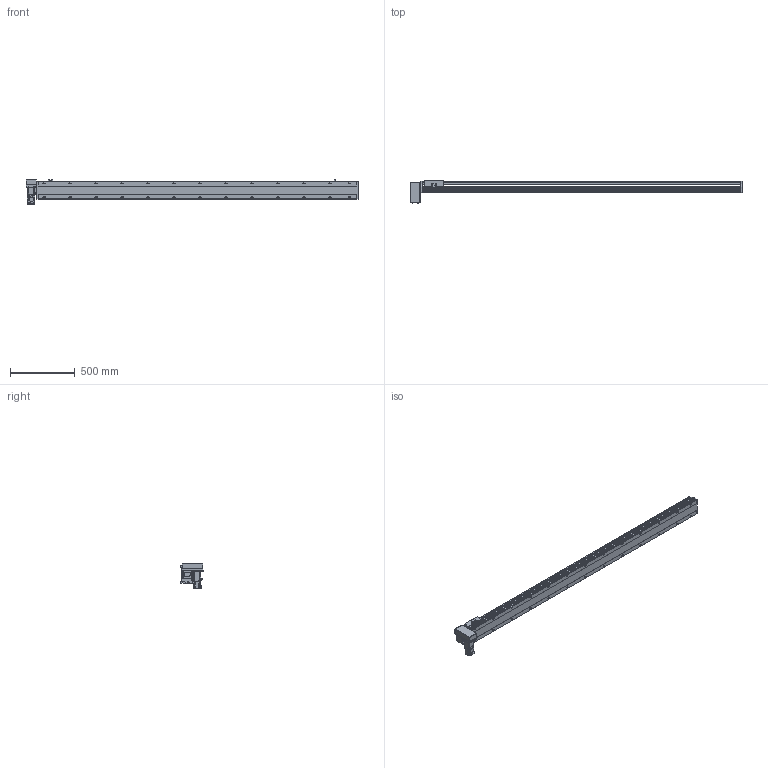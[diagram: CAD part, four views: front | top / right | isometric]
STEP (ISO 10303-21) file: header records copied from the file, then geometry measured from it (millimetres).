
FILE_DESCRIPTION( ( 'STEP AP214' ), '1' );
FILE_NAME( 'x:/temp/worker_6/temp/exporttempdir_5396_184_K6EFV/format_0/PBS140S-P40-S2200-RD-T40-C1-N(0).stp', '2022-06-09T00:47:33', ( 'License CC BY-ND 4.0' ), ( 'CADENAS' ), ' ', 'PARTsolutions', ' ' );
FILE_SCHEMA( ( 'AUTOMOTIVE_DESIGN { 1 0 10303 214 1 1 1 1 }' ) );
Length unit declared in the file: millimetre
Products named in the file (7): PBS140S-P40-S2200-RD-T40-C1-N(0); _PBS140S-S2200()_body; _PBS140ST-RD_motors; _T40-p1; _PBS140S_sliser; _PBS140S_plant; _PBS140S_sensor
Assembly tree (8 placements, depth 2):
  PBS140S-P40-S2200-RD-T40-C1-N(0)
    _PBS140S-S2200()_body
    _PBS140ST-RD_motors
    _T40-p1
    _PBS140S_sliser
    _PBS140S_plant
    _PBS140S_sensor  x3
Bounding box: 2554 x 172.5 x 189.7 mm (x, y, z)
Volume: 12504302 mm3; surface area: 2113137.5 mm2
Topology: 8 solids, 8 shells, 1179 faces, 3111 edges, 2035 vertices
Faces by surface type: plane 732, cylinder 385, cone 52, sphere 8, torus 2
Full cylindrical faces by diameter (mm): 3.242 x4, 4 x2, 4.134 x4, 4.4 x8, 4.5 x2, 4.8 x4, 4.917 x34, 5.5 x7, 6 x2, 7 x28, 7.5 x8, 8 x12, 8.5 x4, 10.5 x26, 14 x1, 30 x2, 50 x2
Entity records: 43546 total; most frequent: CARTESIAN_POINT 7246, DIRECTION 5698, ORIENTED_EDGE 5362, EDGE_CURVE 2681, AXIS2_PLACEMENT_3D 2009, VERTEX_POINT 1873, LINE 1680, VECTOR 1680
